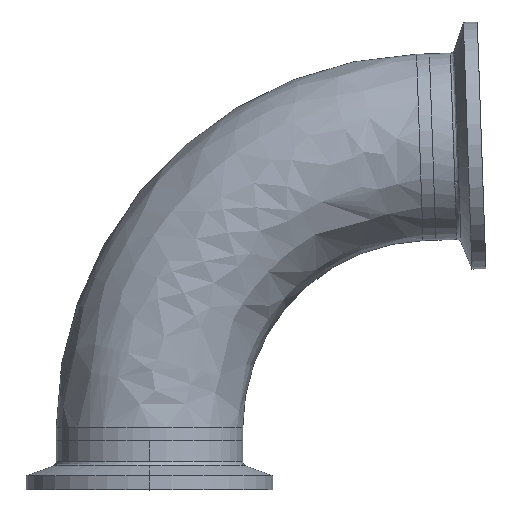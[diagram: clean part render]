
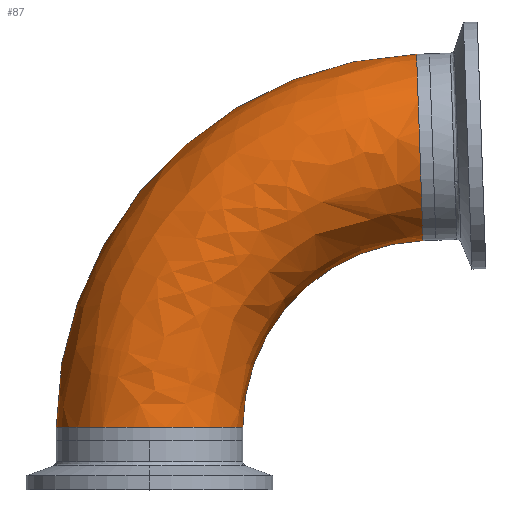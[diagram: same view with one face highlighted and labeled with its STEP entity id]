
A CAD part, top view. The second image highlights one B-rep face of the part: STEP entity #87.
In plain terms, the highlighted free-form (B-spline) face has degree [3, 3] with [4, 4] control points.
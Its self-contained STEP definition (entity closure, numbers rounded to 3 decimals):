
#73 = CARTESIAN_POINT ( 'NONE',  ( -19.05, 2.754, 38.1 ) ) ;
#83 = CARTESIAN_POINT ( 'NONE',  ( -19.05, 2.754, 0. ) ) ;
#87 = ADVANCED_FACE ( 'NONE', ( #2581 ), #1727, .T. ) ;
#111 = EDGE_CURVE ( 'NONE', #1817, #1658, #3141, .T. ) ;
#119 = AXIS2_PLACEMENT_3D ( 'NONE', #842, #2642, #1091 ) ;
#176 = ORIENTED_EDGE ( 'NONE', *, *, #1482, .T. ) ;
#229 = CIRCLE ( 'NONE', #119, 76.25 ) ;
#363 = CARTESIAN_POINT ( 'NONE',  ( -19.05, 46.194, 0. ) ) ;
#383 = CARTESIAN_POINT ( 'NONE',  ( 54.539, 78.958, 0. ) ) ;
#439 = CARTESIAN_POINT ( 'NONE',  ( 34.148, 40.123, 0. ) ) ;
#501 = DIRECTION ( 'NONE',  ( -1., 0., 0. ) ) ;
#522 = EDGE_LOOP ( 'NONE', ( #176, #1662, #1946, #1093 ) ) ;
#533 = CARTESIAN_POINT ( 'NONE',  ( 54.539, 78.958, 0. ) ) ;
#575 = EDGE_CURVE ( 'NONE', #1658, #834, #3154, .T. ) ;
#609 = DIRECTION ( 'NONE',  ( 0., 0., -1. ) ) ;
#671 = CARTESIAN_POINT ( 'NONE',  ( -19.05, 2.754, 0. ) ) ;
#741 = CARTESIAN_POINT ( 'NONE',  ( 57.2, 2.754, 0. ) ) ;
#789 = CARTESIAN_POINT ( 'NONE',  ( 19.05, 2.754, 38.1 ) ) ;
#834 = VERTEX_POINT ( 'NONE', #533 ) ;
#842 = CARTESIAN_POINT ( 'NONE',  ( 57.2, 2.754, 0. ) ) ;
#1059 = CIRCLE ( 'NONE', #2302, 19.05 ) ;
#1091 = DIRECTION ( 'NONE',  ( -1., 0., 0. ) ) ;
#1093 = ORIENTED_EDGE ( 'NONE', *, *, #2878, .F. ) ;
#1103 = CARTESIAN_POINT ( 'NONE',  ( 55.869, 40.881, 0. ) ) ;
#1122 = VERTEX_POINT ( 'NONE', #671 ) ;
#1306 = CARTESIAN_POINT ( 'NONE',  ( 19.05, 2.754, 0. ) ) ;
#1318 = CARTESIAN_POINT ( 'NONE',  ( 19.05, 24.488, 0. ) ) ;
#1482 = EDGE_CURVE ( 'NONE', #1122, #1817, #1059, .T. ) ;
#1535 = DIRECTION ( 'NONE',  ( -0.035, 0.999, 0. ) ) ;
#1658 = VERTEX_POINT ( 'NONE', #1103 ) ;
#1662 = ORIENTED_EDGE ( 'NONE', *, *, #111, .T. ) ;
#1727 =( BOUNDED_SURFACE ( )  B_SPLINE_SURFACE ( 3, 3, ( 
 ( #83, #363, #1751, #383 ),
 ( #73, #2751, #1963, #2975 ),
 ( #789, #2984, #2348, #2933 ),
 ( #1306, #1318, #439, #2533 ) ),
 .UNSPECIFIED., .F., .F., .F. ) 
 B_SPLINE_SURFACE_WITH_KNOTS ( ( 4, 4 ),
 ( 4, 4 ),
 ( 0., 1. ),
 ( 0., 1. ),
 .UNSPECIFIED. ) 
 GEOMETRIC_REPRESENTATION_ITEM ( )  RATIONAL_B_SPLINE_SURFACE ( (
 ( 1., 0.813, 0.813, 1.),
 ( 0.333, 0.271, 0.271, 0.333),
 ( 0.333, 0.271, 0.271, 0.333),
 ( 1., 0.813, 0.813, 1.) ) ) 
 REPRESENTATION_ITEM ( '' )  SURFACE ( )  );
#1751 = CARTESIAN_POINT ( 'NONE',  ( 11.126, 77.442, 0. ) ) ;
#1762 = CARTESIAN_POINT ( 'NONE',  ( 0., 2.754, 0. ) ) ;
#1817 = VERTEX_POINT ( 'NONE', #3115 ) ;
#1946 = ORIENTED_EDGE ( 'NONE', *, *, #575, .T. ) ;
#1963 = CARTESIAN_POINT ( 'NONE',  ( 11.126, 77.442, 38.1 ) ) ;
#2081 = DIRECTION ( 'NONE',  ( -0.999, -0.035, 0. ) ) ;
#2154 = CARTESIAN_POINT ( 'NONE',  ( 55.204, 59.919, 0. ) ) ;
#2168 = DIRECTION ( 'NONE',  ( 0., 1., 0. ) ) ;
#2302 = AXIS2_PLACEMENT_3D ( 'NONE', #1762, #2168, #501 ) ;
#2348 = CARTESIAN_POINT ( 'NONE',  ( 34.148, 40.123, 38.1 ) ) ;
#2423 = AXIS2_PLACEMENT_3D ( 'NONE', #741, #609, #2614 ) ;
#2533 = CARTESIAN_POINT ( 'NONE',  ( 55.869, 40.881, 0. ) ) ;
#2581 = FACE_OUTER_BOUND ( 'NONE', #522, .T. ) ;
#2614 = DIRECTION ( 'NONE',  ( -1., 0., 0. ) ) ;
#2642 = DIRECTION ( 'NONE',  ( 0., 0., -1. ) ) ;
#2751 = CARTESIAN_POINT ( 'NONE',  ( -19.05, 46.194, 38.1 ) ) ;
#2815 = AXIS2_PLACEMENT_3D ( 'NONE', #2154, #2081, #1535 ) ;
#2878 = EDGE_CURVE ( 'NONE', #1122, #834, #229, .T. ) ;
#2933 = CARTESIAN_POINT ( 'NONE',  ( 55.869, 40.881, 38.1 ) ) ;
#2975 = CARTESIAN_POINT ( 'NONE',  ( 54.539, 78.958, 38.1 ) ) ;
#2984 = CARTESIAN_POINT ( 'NONE',  ( 19.05, 24.488, 38.1 ) ) ;
#3115 = CARTESIAN_POINT ( 'NONE',  ( 19.05, 2.754, 0. ) ) ;
#3141 = CIRCLE ( 'NONE', #2423, 38.15 ) ;
#3154 = CIRCLE ( 'NONE', #2815, 19.05 ) ;
